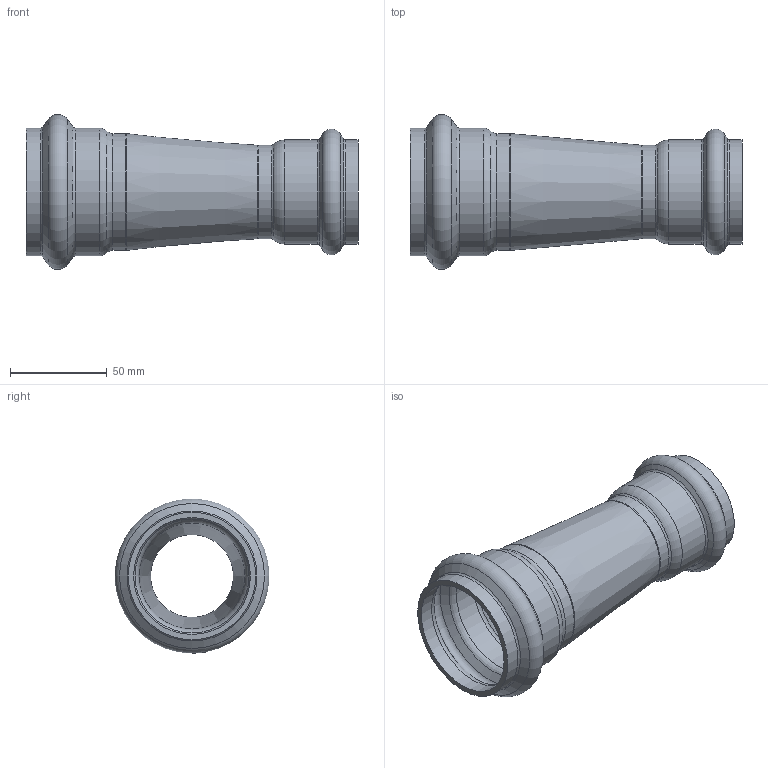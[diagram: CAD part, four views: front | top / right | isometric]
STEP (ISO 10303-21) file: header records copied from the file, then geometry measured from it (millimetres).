
FILE_DESCRIPTION(/* description */ ('VIC REDUCER CONC. STYLE P594 (P X P)','CAx-IF Rec.Pracs.---Representation and Presentation of Product Manufacturing Information (PMI)---4.0---2014-10-13'),/* implementation_level */ '2;1');
FILE_NAME(/* name */ 'C:\Users\Vjadhav\AppData\Roaming\Autodesk\ApplicationPlugins\Back Up\Victaulic_SS-Vic-Press-TP 304_Reducer Concentric_Style P594 (VP)\Victaulic_SS-Vic-Press-TP 304_Reducer Concentric_Style P594 (VP)_02.0x01.5 (50x40).stp',/* time_stamp */ '2020-08-12T18:15:04+06:00',/* author */ ('cgray'),/* organization */ ('Victaulic'),/* preprocessor_version */ 'ST-DEVELOPER v17.2',/* originating_system */ 'Autodesk Inventor 2019',/* authorisation */ '');
FILE_SCHEMA (('AP242_MANAGED_MODEL_BASED_3D_ENGINEERING_MIM_LF { 1 0 10303 442 1 1 4 }'));
Length unit declared in the file: inch
Products named in the file (1): P594-02.0x01.5
Bounding box: 171.45 x 79.89 x 79.89 mm (x, y, z)
Volume: 89482.3 mm3; surface area: 65719.1 mm2
Topology: 1 solids, 1 shells, 48 faces, 182 edges, 136 vertices
Faces by surface type: torus 24, cylinder 12, cone 10, plane 2
Full cylindrical faces by diameter (mm): 42.723 x1, 48.26 x3, 53.797 x2, 54.788 x1, 60.325 x3, 65.862 x2
Entity records: 2282 total; most frequent: DIRECTION 466, CARTESIAN_POINT 384, ORIENTED_EDGE 364, AXIS2_PLACEMENT_3D 222, EDGE_CURVE 182, CIRCLE 160, VERTEX_POINT 136, EDGE_LOOP 50
